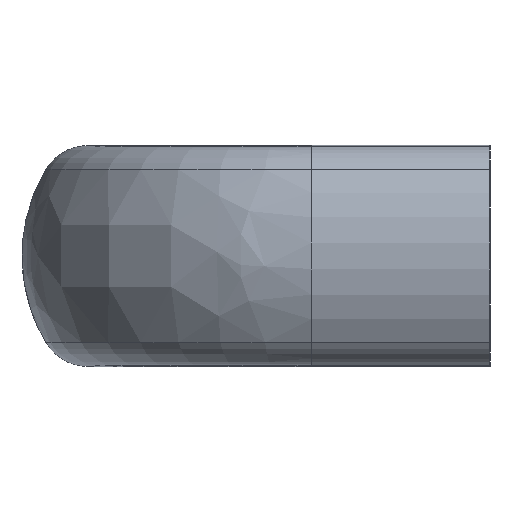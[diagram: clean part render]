
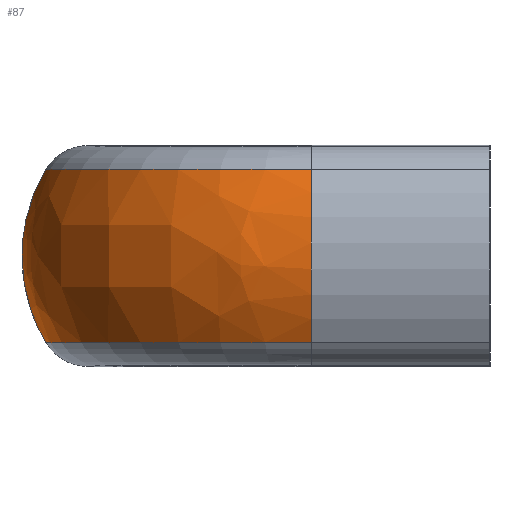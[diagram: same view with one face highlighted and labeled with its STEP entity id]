
A CAD part, left-side view. The second image highlights one B-rep face of the part: STEP entity #87.
In plain terms, the highlighted free-form (B-spline) face has degree [3, 3] with [4, 4] control points.
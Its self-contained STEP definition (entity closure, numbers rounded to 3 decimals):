
#87 = ADVANCED_FACE( '', ( #155 ), #156, .T. );
#155 = FACE_OUTER_BOUND( '', #265, .T. );
#156 = ( BOUNDED_SURFACE(  )B_SPLINE_SURFACE( 3, 3, ( ( #268, #269, #270, #271 ), ( #272, #273, #274, #275 ), ( #276, #277, #278, #279 ), ( #280, #281, #282, #283 ) ), .UNSPECIFIED., .F., .F., .F. )B_SPLINE_SURFACE_WITH_KNOTS( ( 4, 4 ), ( 4, 4 ), ( 1.571, 3.142 ), ( -0.537, 0.537 ), .UNSPECIFIED. )GEOMETRIC_REPRESENTATION_ITEM(  )RATIONAL_B_SPLINE_SURFACE( ( ( 1., 0.805, 0.805, 1. ), ( 0.906, 0.729, 0.729, 0.906 ), ( 0.906, 0.729, 0.729, 0.906 ), ( 1., 0.805, 0.805, 1. ) ) )REPRESENTATION_ITEM( '' )SURFACE(  ) );
#265 = EDGE_LOOP( '', ( #477, #478, #479, #480, #481 ) );
#268 = CARTESIAN_POINT( '', ( -38.5, 52.189, 10.177 ) );
#269 = CARTESIAN_POINT( '', ( -56.77, 52.189, 10.177 ) );
#270 = CARTESIAN_POINT( '', ( -69.689, 39.27, 10.177 ) );
#271 = CARTESIAN_POINT( '', ( -69.689, 21., 10.177 ) );
#272 = CARTESIAN_POINT( '', ( -38.5, 56.02, 3.744 ) );
#273 = CARTESIAN_POINT( '', ( -59.014, 56.02, 3.744 ) );
#274 = CARTESIAN_POINT( '', ( -73.52, 41.514, 3.744 ) );
#275 = CARTESIAN_POINT( '', ( -73.52, 21., 3.744 ) );
#276 = CARTESIAN_POINT( '', ( -38.5, 56.02, -3.744 ) );
#277 = CARTESIAN_POINT( '', ( -59.014, 56.02, -3.744 ) );
#278 = CARTESIAN_POINT( '', ( -73.52, 41.514, -3.744 ) );
#279 = CARTESIAN_POINT( '', ( -73.52, 21., -3.744 ) );
#280 = CARTESIAN_POINT( '', ( -38.5, 52.189, -10.177 ) );
#281 = CARTESIAN_POINT( '', ( -56.77, 52.189, -10.177 ) );
#282 = CARTESIAN_POINT( '', ( -69.689, 39.27, -10.177 ) );
#283 = CARTESIAN_POINT( '', ( -69.689, 21., -10.177 ) );
#477 = ORIENTED_EDGE( '', *, *, #834, .T. );
#478 = ORIENTED_EDGE( '', *, *, #835, .F. );
#479 = ORIENTED_EDGE( '', *, *, #836, .F. );
#480 = ORIENTED_EDGE( '', *, *, #806, .T. );
#481 = ORIENTED_EDGE( '', *, *, #805, .T. );
#805 = EDGE_CURVE( '', #941, #942, #943, .T. );
#806 = EDGE_CURVE( '', #944, #941, #945, .T. );
#834 = EDGE_CURVE( '', #942, #994, #996, .T. );
#835 = EDGE_CURVE( '', #997, #994, #998, .T. );
#836 = EDGE_CURVE( '', #944, #997, #999, .T. );
#941 = VERTEX_POINT( '', #1149 );
#942 = VERTEX_POINT( '', #1150 );
#943 = B_SPLINE_CURVE_WITH_KNOTS( '', 3, ( #1151, #1152, #1153, #1154, #1155, #1156 ), .UNSPECIFIED., .F., .F., ( 4, 2, 4 ), ( 0., 0.5, 1. ), .UNSPECIFIED. );
#944 = VERTEX_POINT( '', #1157 );
#945 = B_SPLINE_CURVE_WITH_KNOTS( '', 3, ( #1158, #1159, #1160, #1161, #1162, #1163 ), .UNSPECIFIED., .F., .F., ( 4, 2, 4 ), ( 0., 0.5, 1. ), .UNSPECIFIED. );
#994 = VERTEX_POINT( '', #1246 );
#996 = CIRCLE( '', #1248, 31.189 );
#997 = VERTEX_POINT( '', #1249 );
#998 = CIRCLE( '', #1250, 19.889 );
#999 = CIRCLE( '', #1251, 31.189 );
#1149 = CARTESIAN_POINT( '', ( -38.5, 54.995, 0.043 ) );
#1150 = CARTESIAN_POINT( '', ( -38.5, 52.189, -10.184 ) );
#1151 = CARTESIAN_POINT( '', ( -38.5, 54.99, 0.043 ) );
#1152 = CARTESIAN_POINT( '', ( -38.5, 54.994, -1.745 ) );
#1153 = CARTESIAN_POINT( '', ( -38.5, 54.755, -3.533 ) );
#1154 = CARTESIAN_POINT( '', ( -38.5, 53.81, -6.981 ) );
#1155 = CARTESIAN_POINT( '', ( -38.5, 53.104, -8.641 ) );
#1156 = CARTESIAN_POINT( '', ( -38.5, 52.189, -10.177 ) );
#1157 = CARTESIAN_POINT( '', ( -38.5, 52.188, 10.185 ) );
#1158 = CARTESIAN_POINT( '', ( -38.5, 52.189, 10.177 ) );
#1159 = CARTESIAN_POINT( '', ( -38.5, 53.097, 8.653 ) );
#1160 = CARTESIAN_POINT( '', ( -38.5, 53.799, 7.008 ) );
#1161 = CARTESIAN_POINT( '', ( -38.5, 54.744, 3.589 ) );
#1162 = CARTESIAN_POINT( '', ( -38.5, 54.986, 1.816 ) );
#1163 = CARTESIAN_POINT( '', ( -38.5, 54.99, 0.043 ) );
#1246 = CARTESIAN_POINT( '', ( -69.689, 21., -10.177 ) );
#1248 = AXIS2_PLACEMENT_3D( '', #1481, #1482, #1483 );
#1249 = CARTESIAN_POINT( '', ( -69.689, 21., 10.177 ) );
#1250 = AXIS2_PLACEMENT_3D( '', #1484, #1485, #1486 );
#1251 = AXIS2_PLACEMENT_3D( '', #1487, #1488, #1489 );
#1481 = CARTESIAN_POINT( '', ( -38.5, 21., -10.177 ) );
#1482 = DIRECTION( '', ( 0., 0., 1. ) );
#1483 = DIRECTION( '', ( 1., 0., 0. ) );
#1484 = CARTESIAN_POINT( '', ( -52.601, 21., 0. ) );
#1485 = DIRECTION( '', ( 0., -1., 0. ) );
#1486 = DIRECTION( '', ( 0., 0., 1. ) );
#1487 = CARTESIAN_POINT( '', ( -38.5, 21., 10.177 ) );
#1488 = DIRECTION( '', ( 0., 0., 1. ) );
#1489 = DIRECTION( '', ( 1., 0., 0. ) );
